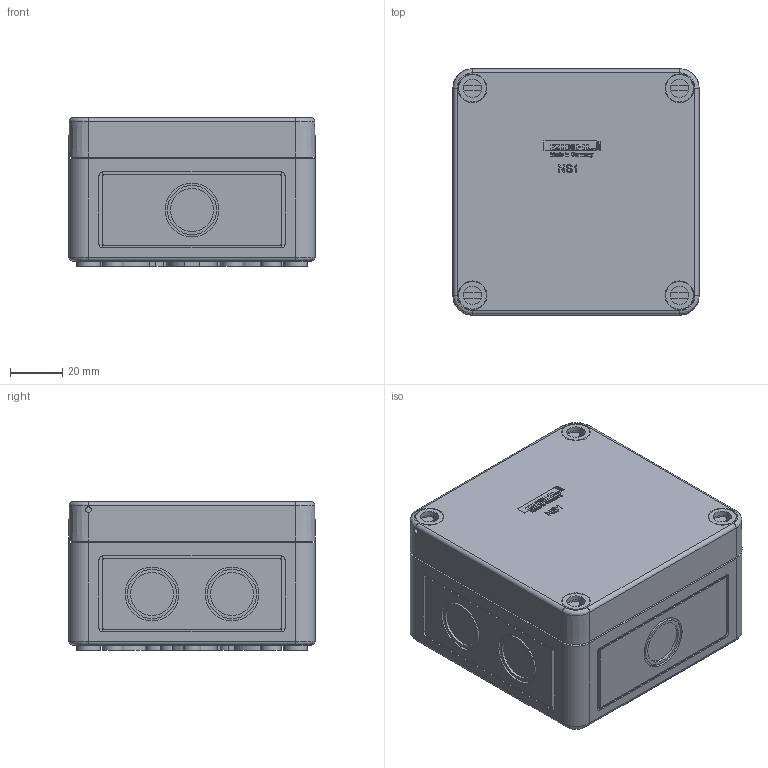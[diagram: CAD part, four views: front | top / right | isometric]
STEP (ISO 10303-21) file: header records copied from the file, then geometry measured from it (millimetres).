
FILE_DESCRIPTION (( 'STEP AP214' ), '1' );
FILE_NAME ('05980-1900-00_NS1_3D.STEP', '2015-02-04T06:54:19', ( '' ), ( '' ), 'SwSTEP 2.0', 'SolidWorks 2015', '' );
FILE_SCHEMA (( 'AUTOMOTIVE_DESIGN' ));
Length unit declared in the file: millimetre
Products named in the file (6): Text; ZIEHL-Logo; _Schraube_TK34mm-grau; _Deckel_TK99-6; _Kasten_TK99-m; 05980-1900-00_NS1_3D
Assembly tree (8 placements, depth 2):
  05980-1900-00_NS1_3D
    _Kasten_TK99-m
    _Deckel_TK99-6
    _Schraube_TK34mm-grau  x4
    ZIEHL-Logo
    Text
Bounding box: 94 x 94 x 56.73 mm (x, y, z)
Volume: 120715.5 mm3; surface area: 97170.2 mm2
Topology: 28 solids, 28 shells, 1079 faces, 2722 edges, 1793 vertices
Faces by surface type: plane 617, cylinder 255, bspline 162, cone 45
Full cylindrical faces by diameter (mm): 2.2 x2, 2.4 x4, 3.4 x10, 5 x4, 5.8 x8, 7 x4, 8 x6, 8.376 x4, 9 x4, 10.5 x4, 14.11 x4, 16.5 x7, 18.7 x7, 20.5 x7
Entity records: 46145 total; most frequent: CARTESIAN_POINT 13356, ORIENTED_EDGE 4672, DIRECTION 4184, EDGE_CURVE 2336, VERTEX_POINT 1592, LINE 1452, VECTOR 1452, AXIS2_PLACEMENT_3D 1366
